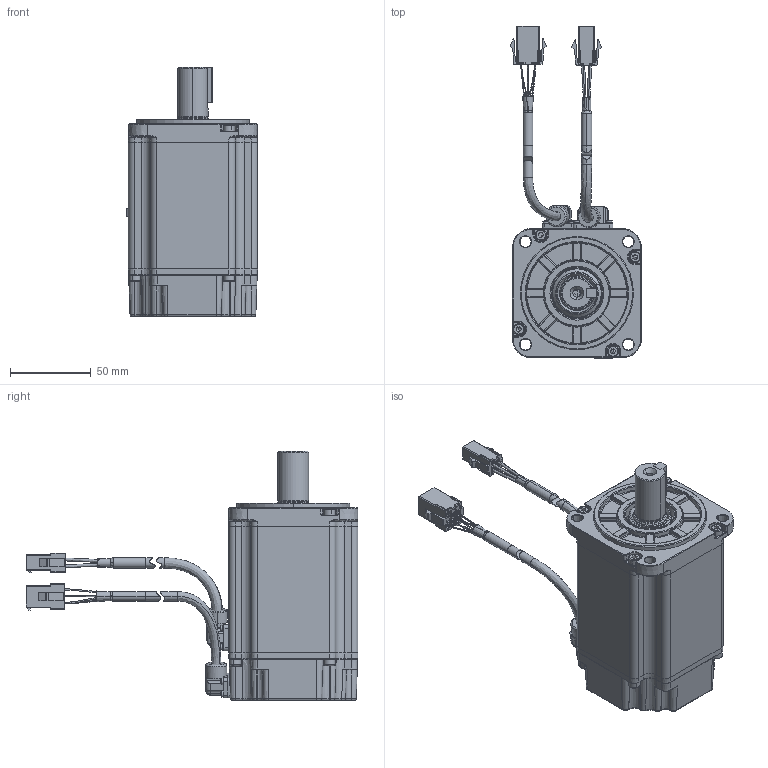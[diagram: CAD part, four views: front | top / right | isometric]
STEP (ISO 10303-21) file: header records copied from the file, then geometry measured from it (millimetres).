
FILE_DESCRIPTION (( 'STEP AP214' ), '1' );
FILE_NAME ('4030810-↓↓↓↓_80萇儂_DM1M-10A80↓8S_A0.STEP', '2020-05-05T02:48:11', ( '' ), ( '' ), 'SwSTEP 2.0', 'SolidWorks 2018', '' );
FILE_SCHEMA (( 'AUTOMOTIVE_DESIGN' ));
Length unit declared in the file: millimetre
Products named in the file (1): 4030810-↓↓↓↓_80萇儂_DM1M-10A80↓8S_A0
Bounding box: 81.15 x 205.5 x 154.4 mm (x, y, z)
Surface area: 70236.2 mm2 (no closed solid volume)
Topology: 0 solids, 62 shells, 1327 faces, 4379 edges, 3000 vertices
Faces by surface type: plane 563, cylinder 316, cone 152, bspline 142, torus 123, sphere 31
Entity records: 67109 total; most frequent: CARTESIAN_POINT 15581, DIRECTION 7667, ORIENTED_EDGE 7087, EDGE_CURVE 4355, VERTEX_POINT 3000, AXIS2_PLACEMENT_3D 2612, VECTOR 2443, LINE 2443
